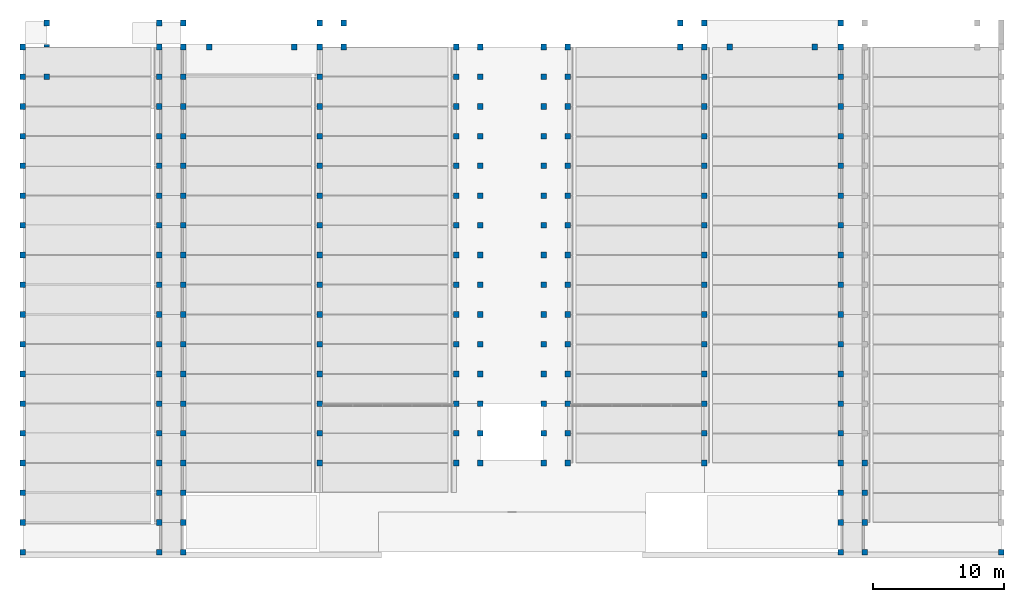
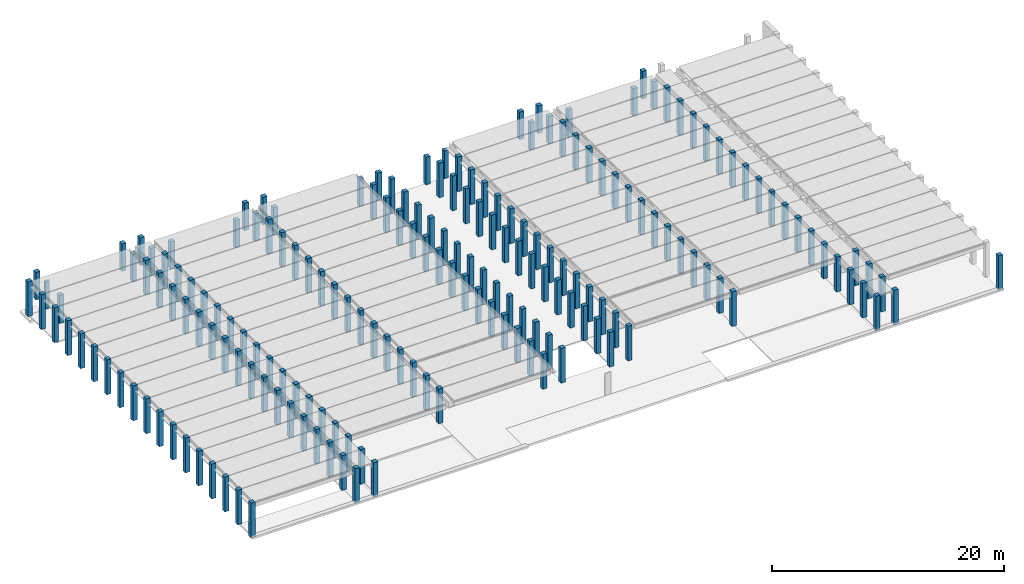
# One storey, part 1 of 25: 183 columns.
"""IFC2X3 building model written with IfcOpenShell, lengths in millimetres."""

from ifc_helpers import new_model, entity, si_unit, converted_unit, derived_unit, direction, frame, origin, origin_2d_with_axis, place, context, subcontext, project, spatial, polyline, rectangle, outline, extrude, source, transform, mapped, material, type_object, type_shapes, element, save


model = new_model("IFC2X3")

# Units and contexts
model_context = context("Model", 3, precision=0.01, world=origin(), true_north=direction((6.12303176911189e-17, 1.0)))
body_context = subcontext(model_context, "Body", "Model", "MODEL_VIEW")
ifc_project = project(units=[si_unit("LENGTHUNIT", "METRE", prefix="MILLI"), si_unit("AREAUNIT", "SQUARE_METRE"), si_unit("VOLUMEUNIT", "CUBIC_METRE"), converted_unit("PLANEANGLEUNIT", "DEGREE", entity("IfcRatioMeasure", 0.0174532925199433), si_unit("PLANEANGLEUNIT", "RADIAN"), dimensions=[0, 0, 0, 0, 0, 0, 0]), si_unit("MASSUNIT", "GRAM", prefix="KILO"), derived_unit("MASSDENSITYUNIT", [(si_unit("MASSUNIT", "GRAM", prefix="KILO"), 1), (si_unit("LENGTHUNIT", "METRE"), -3)]), derived_unit("MOMENTOFINERTIAUNIT", [(si_unit("LENGTHUNIT", "METRE"), 4)]), si_unit("TIMEUNIT", "SECOND"), si_unit("FREQUENCYUNIT", "HERTZ"), si_unit("THERMODYNAMICTEMPERATUREUNIT", "DEGREE_CELSIUS"), derived_unit("THERMALTRANSMITTANCEUNIT", [(si_unit("MASSUNIT", "GRAM", prefix="KILO"), 1), (si_unit("THERMODYNAMICTEMPERATUREUNIT", "KELVIN"), -1), (si_unit("TIMEUNIT", "SECOND"), -3)]), derived_unit("VOLUMETRICFLOWRATEUNIT", [(si_unit("LENGTHUNIT", "METRE"), 3), (si_unit("TIMEUNIT", "SECOND"), -1)]), si_unit("ELECTRICCURRENTUNIT", "AMPERE"), si_unit("ELECTRICVOLTAGEUNIT", "VOLT"), si_unit("POWERUNIT", "WATT"), si_unit("FORCEUNIT", "NEWTON", prefix="KILO"), si_unit("ILLUMINANCEUNIT", "LUX"), si_unit("LUMINOUSFLUXUNIT", "LUMEN"), si_unit("LUMINOUSINTENSITYUNIT", "CANDELA"), derived_unit("USERDEFINED", [(si_unit("MASSUNIT", "GRAM", prefix="KILO"), -1), (si_unit("LENGTHUNIT", "METRE"), -2), (si_unit("TIMEUNIT", "SECOND"), 3), (si_unit("LUMINOUSFLUXUNIT", "LUMEN"), 1)]), derived_unit("LINEARVELOCITYUNIT", [(si_unit("LENGTHUNIT", "METRE"), 1), (si_unit("TIMEUNIT", "SECOND"), -1)]), si_unit("PRESSUREUNIT", "PASCAL"), derived_unit("USERDEFINED", [(si_unit("LENGTHUNIT", "METRE"), -2), (si_unit("MASSUNIT", "GRAM", prefix="KILO"), 1), (si_unit("TIMEUNIT", "SECOND"), -2)]), derived_unit("LINEARFORCEUNIT", [(si_unit("MASSUNIT", "GRAM", prefix="KILO"), 1), (si_unit("LENGTHUNIT", "METRE"), 1), (si_unit("TIMEUNIT", "SECOND"), -2), (si_unit("LENGTHUNIT", "METRE"), -1)]), derived_unit("PLANARFORCEUNIT", [(si_unit("MASSUNIT", "GRAM", prefix="KILO"), 1), (si_unit("LENGTHUNIT", "METRE"), 1), (si_unit("TIMEUNIT", "SECOND"), -2), (si_unit("LENGTHUNIT", "METRE"), -2)])], contexts=[model_context])

# Site, building, storey
site_placement = place(None, frame((10627.5135316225, 21939.0796949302, 0.0)))
site = spatial("IfcSite", under=ifc_project, at=site_placement, Name="Default", CompositionType="ELEMENT")
building_placement = place(site_placement, origin())
building = spatial("IfcBuilding", under=site, at=building_placement, CompositionType="ELEMENT")
storey_placement = place(building_placement, origin())
storey = spatial("IfcBuildingStorey", under=building, at=storey_placement, Name="RDC", CompositionType="ELEMENT", Elevation=0.0)

# Columns
ifc_material = material(Name="Concrete, Precast Smooth, Light Grey")
column_type_1 = type_object("IfcColumnType", Name="M_Precast-Square Column:430x430", PredefinedType="COLUMN", material=ifc_material)
shared_shape_1 = source(origin(), body_context, "Body", "SweptSolid", [
    extrude(rectangle(XDim=430.0, YDim=430.0, at=origin_2d_with_axis()), frame((0.0, 0.0, 0.0), z_axis=(0.0, 0.0, 1.0), x_axis=(0.0, -1.0, 0.0)), (0.0, 0.0, 1.0), 2910.0),
])
type_shapes(column_type_1, [shared_shape_1])
column_1_placement = place(storey_placement, frame((-247.513531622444, 16480.9203050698, 0.0)))
element("IfcColumn", 1, at=column_1_placement, inside=storey, type_object=column_type_1, material=ifc_material, Name="M_Precast-Square Column:430x430", ObjectType="M_Precast-Square Column:430x430", context=body_context, shape_type="MappedRepresentation", body=[
    mapped(shared_shape_1, transform((0.0, 0.0, 0.0), scale=1.0)),
])
for number, where, z_axis, x_axis, name in (
    (2, (-247.513531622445, 18310.9203050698, 0.0), (0.0, 0.0, 1.0), (-1.0, 0.0, 0.0), "M_Precast-Square Column:430x430"),
    (3, (1582.48646837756, 18310.9203050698, 0.0), (0.0, 0.0, 1.0), (-1.0, 0.0, 0.0), "M_Precast-Square Column:430x430"),
    (4, (1582.48646837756, 16480.9203050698, 0.0), (0.0, 0.0, 1.0), (-1.0, 0.0, 0.0), "M_Precast-Square Column:430x430"),
    (5, (3545.48646837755, 16480.9203050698, 0.0), (0.0, 0.0, 1.0), (-1.0, 0.0, 0.0), "M_Precast-Square Column:430x430"),
    (6, (11962.4864683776, 16480.9203050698, 0.0), (0.0, 0.0, 1.0), (-1.0, 0.0, 0.0), "M_Precast-Square Column:430x430"),
    (7, (11962.4864683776, 18310.9203050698, 0.0), (0.0, 0.0, 1.0), (-1.0, 0.0, 0.0), "M_Precast-Square Column:430x430"),
    (8, (-8797.51353162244, 18310.9203050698, 0.0), (0.0, 0.0, 1.0), (-1.0, 0.0, 0.0), "M_Precast-Square Column:430x430"),
    (9, (22342.4864683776, 16480.9203050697, 0.0), (0.0, 0.0, 1.0), (-1.0, 0.0, 0.0), "M_Precast-Square Column:430x430"),
    (10, (24172.4864683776, 16480.9203050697, 0.0), (0.0, 0.0, 1.0), (-1.0, 0.0, 0.0), "M_Precast-Square Column:430x430"),
    (11, (43137.3311933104, 16480.9203050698, 0.0), (0.0, 0.0, 1.0), (-1.0, 0.0, 0.0), "M_Precast-Square Column:430x430"),
    (12, (39362.4864683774, 18310.9203050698, 0.0), (0.0, 0.0, 1.0), (-1.0, 0.0, 0.0), "M_Precast-Square Column:430x430"),
    (13, (39362.4864683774, 16480.9203050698, 0.0), (0.0, 0.0, 1.0), (-1.0, 0.0, 0.0), "M_Precast-Square Column:430x430"),
):
    element("IfcColumn", number, at=place(storey_placement, frame(where, z_axis=z_axis, x_axis=x_axis)), inside=storey, type_object=column_type_1, material=ifc_material, Name=name, ObjectType="M_Precast-Square Column:430x430", context=body_context, shape_type="MappedRepresentation", body=[
        mapped(shared_shape_1, transform((0.0, 0.0, 0.0), scale=1.0)),
    ])
column_type_2 = type_object("IfcColumnType", Name="M_Precast-Rectangular Column:430X200", PredefinedType="COLUMN", material=ifc_material)
shared_shape_2 = source(origin(), body_context, "Body", "SweptSolid", [
    extrude(outline(polyline([(-75.0, -215.0), (75.0, -215.0), (100.0, -190.0), (100.0, 190.0), (75.0, 215.0), (-75.0, 215.0), (-100.0, 190.0), (-100.0, -190.0), (-75.0, -215.0)])), frame((0.0, 0.0, 0.0), z_axis=(0.0, 0.0, 1.0), x_axis=(0.0, -1.0, 0.0)), (0.0, 0.0, 1.0), 2910.0),
])
type_shapes(column_type_2, [shared_shape_2])
column_2_placement = place(storey_placement, frame((-8797.51353162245, 16590.9203050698, 0.0), z_axis=(0.0, 0.0, 1.0), x_axis=(-1.0, 0.0, 0.0)))
element("IfcColumn", 14, at=column_2_placement, inside=storey, type_object=column_type_2, material=ifc_material, Name="M_Precast-Rectangular Column:430X200", ObjectType="M_Precast-Rectangular Column:430X200", context=body_context, shape_type="MappedRepresentation", body=[
    mapped(shared_shape_2, transform((0.0, 0.0, 0.0), scale=1.0)),
])
column_type_3 = type_object("IfcColumnType", Name="M_Precast-Square Column:430x430", PredefinedType="COLUMN", material=ifc_material)
shared_shape_3 = source(origin(), body_context, "Body", "SweptSolid", [
    extrude(rectangle(XDim=430.0, YDim=430.0, at=origin_2d_with_axis()), frame((0.0, 0.0, 0.0), z_axis=(0.0, 0.0, 1.0), x_axis=(0.0, -1.0, 0.0)), (0.0, 0.0, 1.0), 2910.0),
])
type_shapes(column_type_3, [shared_shape_3])
for number, where, name in (
    (15, (10017.6417434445, 16480.9203050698, 0.0), "M_Precast-Square Column:430x430"),
    (16, (13792.4864683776, 18310.9203050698, 0.0), "M_Precast-Square Column:430x430"),
    (17, (13792.4864683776, 16480.9203050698, 0.0), "M_Precast-Square Column:430x430"),
    (18, (51572.4864683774, 18310.9203050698, 0.0), "M_Precast-Square Column:430x430"),
    (19, (51572.4864683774, 16480.9203050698, 0.0), "M_Precast-Square Column:430x430"),
    (20, (49609.4864683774, 16480.9203050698, 0.0), "M_Precast-Square Column:430x430"),
    (21, (41192.4864683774, 16480.9203050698, 0.0), "M_Precast-Square Column:430x430"),
    (22, (41192.4864683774, 18310.9203050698, 0.0), "M_Precast-Square Column:430x430"),
    (23, (30812.4864683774, 16480.9203050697, 0.0), "M_Precast-Square Column:430x430"),
    (24, (28982.4864683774, 16480.9203050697, 0.0), "M_Precast-Square Column:430x430"),
):
    element("IfcColumn", number, at=place(storey_placement, frame(where)), inside=storey, type_object=column_type_3, material=ifc_material, Name=name, ObjectType="M_Precast-Square Column:430x430", context=body_context, shape_type="MappedRepresentation", body=[
        mapped(shared_shape_3, transform((0.0, 0.0, 0.0), scale=1.0)),
    ])
column_type_4 = type_object("IfcColumnType", Name="M_Precast-Square Column:430x430 Main floor", PredefinedType="COLUMN", material=ifc_material)
shared_shape_4 = source(origin(), body_context, "Body", "SweptSolid", [
    extrude(rectangle(XDim=430.0, YDim=430.0, at=origin_2d_with_axis()), frame((0.0, 0.0, 0.0), z_axis=(0.0, 0.0, 1.0), x_axis=(0.0, -1.0, 0.0)), (0.0, 0.0, 1.0), 2960.0),
])
type_shapes(column_type_4, [shared_shape_4])
column_3_placement = place(storey_placement, frame((-8797.51353162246, 14220.9203050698, 0.0), z_axis=(0.0, 0.0, 1.0), x_axis=(-1.0, 0.0, 0.0)))
element("IfcColumn", 25, at=column_3_placement, inside=storey, type_object=column_type_4, material=ifc_material, Name="M_Precast-Square Column:430x430 Main floor", ObjectType="M_Precast-Square Column:430x430 Main floor", context=body_context, shape_type="MappedRepresentation", body=[
    mapped(shared_shape_4, transform((0.0, 0.0, 0.0), scale=1.0)),
])
column_type_5 = type_object("IfcColumnType", Name="M_Precast-Square Column:430x430 Main floor", PredefinedType="COLUMN", material=ifc_material)
shared_shape_5 = source(origin(), body_context, "Body", "SweptSolid", [
    extrude(rectangle(XDim=430.0, YDim=430.0, at=origin_2d_with_axis()), frame((0.0, 0.0, 0.0), z_axis=(0.0, 0.0, 1.0), x_axis=(0.0, -1.0, 0.0)), (0.0, 0.0, 1.0), 3660.0),
])
type_shapes(column_type_5, [shared_shape_5])
for number, where, z_axis, x_axis, name in (
    (26, (-10627.5135316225, 14220.9203050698, 0.0), (0.0, 0.0, 1.0), (-1.0, 0.0, 0.0), "M_Precast-Square Column:430x430 Main floor"),
    (27, (-10627.5135316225, 11960.9203050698, 0.0), (0.0, 0.0, 1.0), (-1.0, 0.0, 0.0), "M_Precast-Square Column:430x430 Main floor"),
    (28, (-247.51353162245, 14220.9203050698, 0.0), (0.0, 0.0, 1.0), (-1.0, 0.0, 0.0), "M_Precast-Square Column:430x430 Main floor"),
    (29, (-247.513531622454, 11960.9203050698, 0.0), (0.0, 0.0, 1.0), (-1.0, 0.0, 0.0), "M_Precast-Square Column:430x430 Main floor"),
    (30, (1582.48646837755, 14220.9203050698, 0.0), (0.0, 0.0, 1.0), (-1.0, 0.0, 0.0), "M_Precast-Square Column:430x430 Main floor"),
    (31, (1582.48646837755, 11960.9203050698, 0.0), (0.0, 0.0, 1.0), (-1.0, 0.0, 0.0), "M_Precast-Square Column:430x430 Main floor"),
    (32, (11962.4864683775, 14220.9203050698, 0.0), (0.0, 0.0, 1.0), (-1.0, 0.0, 0.0), "M_Precast-Square Column:430x430 Main floor"),
    (33, (11962.4864683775, 11960.9203050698, 0.0), (0.0, 0.0, 1.0), (-1.0, 0.0, 0.0), "M_Precast-Square Column:430x430 Main floor"),
    (34, (22342.4864683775, 14220.9203050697, 0.0), (0.0, 0.0, 1.0), (-1.0, 0.0, 0.0), "M_Precast-Square Column:430x430 Main floor"),
    (35, (22342.4864683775, 11960.9203050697, 0.0), (0.0, 0.0, 1.0), (-1.0, 0.0, 0.0), "M_Precast-Square Column:430x430 Main floor"),
    (36, (24172.4864683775, 14220.9203050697, 0.0), (0.0, 0.0, 1.0), (-1.0, 0.0, 0.0), "M_Precast-Square Column:430x430 Main floor"),
    (37, (24172.4864683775, 11960.9203050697, 0.0), (0.0, 0.0, 1.0), (-1.0, 0.0, 0.0), "M_Precast-Square Column:430x430 Main floor"),
    (38, (-247.513531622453, 9700.92030506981, 0.0), (0.0, 0.0, 1.0), (-1.0, 0.0, 0.0), "M_Precast-Square Column:430x430 Main floor"),
    (39, (1582.48646837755, 9700.9203050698, 0.0), (0.0, 0.0, 1.0), (-1.0, 0.0, 0.0), "M_Precast-Square Column:430x430 Main floor"),
    (40, (-10627.5135316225, 9700.92030506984, 0.0), (0.0, 0.0, 1.0), (-1.0, 0.0, 0.0), "M_Precast-Square Column:430x430 Main floor"),
    (41, (11962.4864683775, 9700.92030506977, 0.0), (0.0, 0.0, 1.0), (-1.0, 0.0, 0.0), "M_Precast-Square Column:430x430 Main floor"),
    (42, (22342.4864683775, 9700.92030506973, 0.0), (0.0, 0.0, 1.0), (-1.0, 0.0, 0.0), "M_Precast-Square Column:430x430 Main floor"),
    (43, (24172.4864683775, 9700.92030506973, 0.0), (0.0, 0.0, 1.0), (-1.0, 0.0, 0.0), "M_Precast-Square Column:430x430 Main floor"),
    (44, (-247.513531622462, 7440.92030506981, 0.0), (0.0, 0.0, 1.0), (-1.0, 0.0, 0.0), "M_Precast-Square Column:430x430 Main floor"),
    (45, (1582.48646837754, 7440.9203050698, 0.0), (0.0, 0.0, 1.0), (-1.0, 0.0, 0.0), "M_Precast-Square Column:430x430 Main floor"),
    (46, (-10627.5135316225, 7440.92030506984, 0.0), (0.0, 0.0, 1.0), (-1.0, 0.0, 0.0), "M_Precast-Square Column:430x430 Main floor"),
    (47, (11962.4864683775, 7440.92030506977, 0.0), (0.0, 0.0, 1.0), (-1.0, 0.0, 0.0), "M_Precast-Square Column:430x430 Main floor"),
    (48, (22342.4864683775, 7440.92030506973, 0.0), (0.0, 0.0, 1.0), (-1.0, 0.0, 0.0), "M_Precast-Square Column:430x430 Main floor"),
    (49, (24172.4864683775, 7440.92030506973, 0.0), (0.0, 0.0, 1.0), (-1.0, 0.0, 0.0), "M_Precast-Square Column:430x430 Main floor"),
    (50, (-247.513531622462, 5180.92030506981, 0.0), (0.0, 0.0, 1.0), (-1.0, 0.0, 0.0), "M_Precast-Square Column:430x430 Main floor"),
    (51, (1582.48646837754, 5180.9203050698, 0.0), (0.0, 0.0, 1.0), (-1.0, 0.0, 0.0), "M_Precast-Square Column:430x430 Main floor"),
    (52, (-10627.5135316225, 5180.92030506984, 0.0), (0.0, 0.0, 1.0), (-1.0, 0.0, 0.0), "M_Precast-Square Column:430x430 Main floor"),
    (53, (11962.4864683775, 5180.92030506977, 0.0), (0.0, 0.0, 1.0), (-1.0, 0.0, 0.0), "M_Precast-Square Column:430x430 Main floor"),
    (54, (22342.4864683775, 5180.92030506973, 0.0), (0.0, 0.0, 1.0), (-1.0, 0.0, 0.0), "M_Precast-Square Column:430x430 Main floor"),
    (55, (24172.4864683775, 5180.92030506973, 0.0), (0.0, 0.0, 1.0), (-1.0, 0.0, 0.0), "M_Precast-Square Column:430x430 Main floor"),
    (56, (-247.513531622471, 2920.92030506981, 0.0), (0.0, 0.0, 1.0), (-1.0, 0.0, 0.0), "M_Precast-Square Column:430x430 Main floor"),
    (57, (1582.48646837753, 2920.9203050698, 0.0), (0.0, 0.0, 1.0), (-1.0, 0.0, 0.0), "M_Precast-Square Column:430x430 Main floor"),
    (58, (-10627.5135316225, 2920.92030506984, 0.0), (0.0, 0.0, 1.0), (-1.0, 0.0, 0.0), "M_Precast-Square Column:430x430 Main floor"),
    (59, (11962.4864683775, 2920.92030506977, 0.0), (0.0, 0.0, 1.0), (-1.0, 0.0, 0.0), "M_Precast-Square Column:430x430 Main floor"),
    (60, (22342.4864683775, 2920.92030506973, 0.0), (0.0, 0.0, 1.0), (-1.0, 0.0, 0.0), "M_Precast-Square Column:430x430 Main floor"),
    (61, (24172.4864683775, 2920.92030506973, 0.0), (0.0, 0.0, 1.0), (-1.0, 0.0, 0.0), "M_Precast-Square Column:430x430 Main floor"),
    (62, (-247.513531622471, 660.920305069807, 0.0), (0.0, 0.0, 1.0), (-1.0, 0.0, 0.0), "M_Precast-Square Column:430x430 Main floor"),
    (63, (1582.48646837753, 660.920305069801, 0.0), (0.0, 0.0, 1.0), (-1.0, 0.0, 0.0), "M_Precast-Square Column:430x430 Main floor"),
    (64, (-10627.5135316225, 660.92030506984, 0.0), (0.0, 0.0, 1.0), (-1.0, 0.0, 0.0), "M_Precast-Square Column:430x430 Main floor"),
    (65, (11962.4864683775, 660.920305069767, 0.0), (0.0, 0.0, 1.0), (-1.0, 0.0, 0.0), "M_Precast-Square Column:430x430 Main floor"),
    (66, (22342.4864683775, 660.920305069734, 0.0), (0.0, 0.0, 1.0), (-1.0, 0.0, 0.0), "M_Precast-Square Column:430x430 Main floor"),
    (67, (24172.4864683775, 660.920305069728, 0.0), (0.0, 0.0, 1.0), (-1.0, 0.0, 0.0), "M_Precast-Square Column:430x430 Main floor"),
    (68, (-247.513531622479, -1599.07969493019, 0.0), (0.0, 0.0, 1.0), (-1.0, 0.0, 0.0), "M_Precast-Square Column:430x430 Main floor"),
    (69, (1582.48646837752, -1599.0796949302, 0.0), (0.0, 0.0, 1.0), (-1.0, 0.0, 0.0), "M_Precast-Square Column:430x430 Main floor"),
    (70, (-10627.5135316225, -1599.07969493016, 0.0), (0.0, 0.0, 1.0), (-1.0, 0.0, 0.0), "M_Precast-Square Column:430x430 Main floor"),
    (71, (11962.4864683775, -1599.07969493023, 0.0), (0.0, 0.0, 1.0), (-1.0, 0.0, 0.0), "M_Precast-Square Column:430x430 Main floor"),
    (72, (22342.4864683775, -1599.07969493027, 0.0), (0.0, 0.0, 1.0), (-1.0, 0.0, 0.0), "M_Precast-Square Column:430x430 Main floor"),
    (73, (24172.4864683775, -1599.07969493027, 0.0), (0.0, 0.0, 1.0), (-1.0, 0.0, 0.0), "M_Precast-Square Column:430x430 Main floor"),
    (74, (-247.513531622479, -3859.07969493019, 0.0), (0.0, 0.0, 1.0), (-1.0, 0.0, 0.0), "M_Precast-Square Column:430x430 Main floor"),
    (75, (1582.48646837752, -3859.0796949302, 0.0), (0.0, 0.0, 1.0), (-1.0, 0.0, 0.0), "M_Precast-Square Column:430x430 Main floor"),
    (76, (-10627.5135316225, -3859.07969493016, 0.0), (0.0, 0.0, 1.0), (-1.0, 0.0, 0.0), "M_Precast-Square Column:430x430 Main floor"),
    (77, (11962.4864683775, -3859.07969493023, 0.0), (0.0, 0.0, 1.0), (-1.0, 0.0, 0.0), "M_Precast-Square Column:430x430 Main floor"),
    (78, (22342.4864683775, -3859.07969493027, 0.0), (0.0, 0.0, 1.0), (-1.0, 0.0, 0.0), "M_Precast-Square Column:430x430 Main floor"),
    (79, (24172.4864683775, -3859.07969493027, 0.0), (0.0, 0.0, 1.0), (-1.0, 0.0, 0.0), "M_Precast-Square Column:430x430 Main floor"),
    (80, (-247.513531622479, -6119.07969493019, 0.0), (0.0, 0.0, 1.0), (-1.0, 0.0, 0.0), "M_Precast-Square Column:430x430 Main floor"),
    (81, (1582.48646837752, -6119.0796949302, 0.0), (0.0, 0.0, 1.0), (-1.0, 0.0, 0.0), "M_Precast-Square Column:430x430 Main floor"),
    (82, (-10627.5135316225, -6119.07969493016, 0.0), (0.0, 0.0, 1.0), (-1.0, 0.0, 0.0), "M_Precast-Square Column:430x430 Main floor"),
    (83, (11962.4864683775, -6119.07969493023, 0.0), (0.0, 0.0, 1.0), (-1.0, 0.0, 0.0), "M_Precast-Square Column:430x430 Main floor"),
    (84, (22342.4864683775, -6119.07969493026, 0.0), (0.0, 0.0, 1.0), (-1.0, 0.0, 0.0), "M_Precast-Square Column:430x430 Main floor"),
    (85, (24172.4864683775, -6119.07969493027, 0.0), (0.0, 0.0, 1.0), (-1.0, 0.0, 0.0), "M_Precast-Square Column:430x430 Main floor"),
    (86, (-247.513531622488, -8379.07969493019, 0.0), (0.0, 0.0, 1.0), (-1.0, 0.0, 0.0), "M_Precast-Square Column:430x430 Main floor"),
    (87, (1582.48646837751, -8379.0796949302, 0.0), (0.0, 0.0, 1.0), (-1.0, 0.0, 0.0), "M_Precast-Square Column:430x430 Main floor"),
    (88, (-10627.5135316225, -8379.07969493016, 0.0), (0.0, 0.0, 1.0), (-1.0, 0.0, 0.0), "M_Precast-Square Column:430x430 Main floor"),
    (89, (11962.4864683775, -8379.07969493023, 0.0), (0.0, 0.0, 1.0), (-1.0, 0.0, 0.0), "M_Precast-Square Column:430x430 Main floor"),
    (90, (22342.4864683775, -8379.07969493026, 0.0), (0.0, 0.0, 1.0), (-1.0, 0.0, 0.0), "M_Precast-Square Column:430x430 Main floor"),
    (91, (24172.4864683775, -8379.07969493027, 0.0), (0.0, 0.0, 1.0), (-1.0, 0.0, 0.0), "M_Precast-Square Column:430x430 Main floor"),
    (92, (-247.513531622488, -10639.0796949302, 0.0), (0.0, 0.0, 1.0), (-1.0, 0.0, 0.0), "M_Precast-Square Column:430x430 Main floor"),
    (93, (1582.48646837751, -10639.0796949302, 0.0), (0.0, 0.0, 1.0), (-1.0, 0.0, 0.0), "M_Precast-Square Column:430x430 Main floor"),
    (94, (-10627.5135316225, -10639.0796949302, 0.0), (0.0, 0.0, 1.0), (-1.0, 0.0, 0.0), "M_Precast-Square Column:430x430 Main floor"),
    (95, (11962.4864683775, -10639.0796949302, 0.0), (0.0, 0.0, 1.0), (-1.0, 0.0, 0.0), "M_Precast-Square Column:430x430 Main floor"),
    (96, (22342.4864683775, -10639.0796949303, 0.0), (0.0, 0.0, 1.0), (-1.0, 0.0, 0.0), "M_Precast-Square Column:430x430 Main floor"),
    (97, (24172.4864683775, -10639.0796949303, 0.0), (0.0, 0.0, 1.0), (-1.0, 0.0, 0.0), "M_Precast-Square Column:430x430 Main floor"),
    (98, (-247.513531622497, -12899.0796949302, 0.0), (0.0, 0.0, 1.0), (-1.0, 0.0, 0.0), "M_Precast-Square Column:430x430 Main floor"),
    (99, (1582.4864683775, -12899.0796949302, 0.0), (0.0, 0.0, 1.0), (-1.0, 0.0, 0.0), "M_Precast-Square Column:430x430 Main floor"),
    (100, (-10627.5135316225, -12899.0796949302, 0.0), (0.0, 0.0, 1.0), (-1.0, 0.0, 0.0), "M_Precast-Square Column:430x430 Main floor"),
    (101, (11962.4864683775, -12899.0796949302, 0.0), (0.0, 0.0, 1.0), (-1.0, 0.0, 0.0), "M_Precast-Square Column:430x430 Main floor"),
    (102, (22342.4864683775, -12899.0796949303, 0.0), (0.0, 0.0, 1.0), (-1.0, 0.0, 0.0), "M_Precast-Square Column:430x430 Main floor"),
    (103, (24172.4864683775, -12899.0796949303, 0.0), (0.0, 0.0, 1.0), (-1.0, 0.0, 0.0), "M_Precast-Square Column:430x430 Main floor"),
    (104, (-247.513531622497, -15159.0796949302, 0.0), (0.0, 0.0, 1.0), (-1.0, 0.0, 0.0), "M_Precast-Square Column:430x430 Main floor"),
    (105, (1582.4864683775, -15159.0796949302, 0.0), (0.0, 0.0, 1.0), (-1.0, 0.0, 0.0), "M_Precast-Square Column:430x430 Main floor"),
    (106, (-10627.5135316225, -15159.0796949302, 0.0), (0.0, 0.0, 1.0), (-1.0, 0.0, 0.0), "M_Precast-Square Column:430x430 Main floor"),
    (107, (11962.4864683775, -15159.0796949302, 0.0), (0.0, 0.0, 1.0), (-1.0, 0.0, 0.0), "M_Precast-Square Column:430x430 Main floor"),
    (108, (22342.4864683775, -15159.0796949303, 0.0), (0.0, 0.0, 1.0), (-1.0, 0.0, 0.0), "M_Precast-Square Column:430x430 Main floor"),
    (109, (24172.4864683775, -15159.0796949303, 0.0), (0.0, 0.0, 1.0), (-1.0, 0.0, 0.0), "M_Precast-Square Column:430x430 Main floor"),
    (110, (-247.513531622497, -17419.0796949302, 0.0), (0.0, 0.0, 1.0), (-1.0, 0.0, 0.0), "M_Precast-Square Column:430x430 Main floor"),
    (111, (1582.4864683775, -17419.0796949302, 0.0), (0.0, 0.0, 1.0), (-1.0, 0.0, 0.0), "M_Precast-Square Column:430x430 Main floor"),
    (112, (-10627.5135316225, -17419.0796949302, 0.0), (0.0, 0.0, 1.0), (-1.0, 0.0, 0.0), "M_Precast-Square Column:430x430 Main floor"),
    (113, (-247.513531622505, -19679.0796949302, 0.0), (0.0, 0.0, 1.0), (-1.0, 0.0, 0.0), "M_Precast-Square Column:430x430 Main floor"),
    (114, (1582.48646837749, -19679.0796949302, 0.0), (0.0, 0.0, 1.0), (-1.0, 0.0, 0.0), "M_Precast-Square Column:430x430 Main floor"),
    (115, (-10627.5135316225, -19679.0796949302, 0.0), (0.0, 0.0, 1.0), (-1.0, 0.0, 0.0), "M_Precast-Square Column:430x430 Main floor"),
    (116, (-247.513531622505, -21939.0796949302, 0.0), (0.0, 0.0, 1.0), (-1.0, 0.0, 0.0), "M_Precast-Square Column:430x430 Main floor"),
    (117, (1582.48646837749, -21939.0796949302, 0.0), (0.0, 0.0, 1.0), (-1.0, 0.0, 0.0), "M_Precast-Square Column:430x430 Main floor"),
    (118, (-10627.5135316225, -21939.0796949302, 0.0), (0.0, 0.0, 1.0), (-1.0, 0.0, 0.0), "M_Precast-Square Column:430x430 Main floor"),
):
    element("IfcColumn", number, at=place(storey_placement, frame(where, z_axis=z_axis, x_axis=x_axis)), inside=storey, type_object=column_type_5, material=ifc_material, Name=name, ObjectType="M_Precast-Square Column:430x430 Main floor", context=body_context, shape_type="MappedRepresentation", body=[
        mapped(shared_shape_5, transform((0.0, 0.0, 0.0), scale=1.0)),
    ])
column_type_6 = type_object("IfcColumnType", Name="M_Precast-Square Column:430x430 Main floor", PredefinedType="COLUMN", material=ifc_material)
shared_shape_6 = source(origin(), body_context, "Body", "SweptSolid", [
    extrude(rectangle(XDim=430.0, YDim=430.0, at=origin_2d_with_axis()), frame((0.0, 0.0, 0.0), z_axis=(0.0, 0.0, 1.0), x_axis=(0.0, -1.0, 0.0)), (0.0, 0.0, 1.0), 3660.0),
])
type_shapes(column_type_6, [shared_shape_6])
for number, where, name in (
    (119, (51572.4864683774, 14220.9203050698, 0.0), "M_Precast-Square Column:430x430 Main floor"),
    (120, (51572.4864683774, 11960.9203050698, 0.0), "M_Precast-Square Column:430x430 Main floor"),
    (121, (41192.4864683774, 14220.9203050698, 0.0), "M_Precast-Square Column:430x430 Main floor"),
    (122, (41192.4864683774, 11960.9203050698, 0.0), "M_Precast-Square Column:430x430 Main floor"),
    (123, (30812.4864683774, 14220.9203050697, 0.0), "M_Precast-Square Column:430x430 Main floor"),
    (124, (30812.4864683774, 11960.9203050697, 0.0), "M_Precast-Square Column:430x430 Main floor"),
    (125, (28982.4864683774, 14220.9203050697, 0.0), "M_Precast-Square Column:430x430 Main floor"),
    (126, (28982.4864683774, 11960.9203050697, 0.0), "M_Precast-Square Column:430x430 Main floor"),
    (127, (51572.4864683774, 9700.9203050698, 0.0), "M_Precast-Square Column:430x430 Main floor"),
    (128, (41192.4864683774, 9700.92030506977, 0.0), "M_Precast-Square Column:430x430 Main floor"),
    (129, (30812.4864683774, 9700.92030506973, 0.0), "M_Precast-Square Column:430x430 Main floor"),
    (130, (28982.4864683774, 9700.92030506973, 0.0), "M_Precast-Square Column:430x430 Main floor"),
    (131, (51572.4864683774, 7440.9203050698, 0.0), "M_Precast-Square Column:430x430 Main floor"),
    (132, (41192.4864683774, 7440.92030506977, 0.0), "M_Precast-Square Column:430x430 Main floor"),
    (133, (30812.4864683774, 7440.92030506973, 0.0), "M_Precast-Square Column:430x430 Main floor"),
    (134, (28982.4864683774, 7440.92030506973, 0.0), "M_Precast-Square Column:430x430 Main floor"),
    (135, (51572.4864683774, 5180.9203050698, 0.0), "M_Precast-Square Column:430x430 Main floor"),
    (136, (41192.4864683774, 5180.92030506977, 0.0), "M_Precast-Square Column:430x430 Main floor"),
    (137, (30812.4864683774, 5180.92030506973, 0.0), "M_Precast-Square Column:430x430 Main floor"),
    (138, (28982.4864683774, 5180.92030506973, 0.0), "M_Precast-Square Column:430x430 Main floor"),
    (139, (51572.4864683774, 2920.9203050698, 0.0), "M_Precast-Square Column:430x430 Main floor"),
    (140, (41192.4864683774, 2920.92030506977, 0.0), "M_Precast-Square Column:430x430 Main floor"),
    (141, (30812.4864683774, 2920.92030506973, 0.0), "M_Precast-Square Column:430x430 Main floor"),
    (142, (28982.4864683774, 2920.92030506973, 0.0), "M_Precast-Square Column:430x430 Main floor"),
    (143, (51572.4864683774, 660.920305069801, 0.0), "M_Precast-Square Column:430x430 Main floor"),
    (144, (41192.4864683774, 660.920305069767, 0.0), "M_Precast-Square Column:430x430 Main floor"),
    (145, (30812.4864683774, 660.920305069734, 0.0), "M_Precast-Square Column:430x430 Main floor"),
    (146, (28982.4864683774, 660.920305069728, 0.0), "M_Precast-Square Column:430x430 Main floor"),
    (147, (51572.4864683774, -1599.0796949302, 0.0), "M_Precast-Square Column:430x430 Main floor"),
    (148, (41192.4864683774, -1599.07969493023, 0.0), "M_Precast-Square Column:430x430 Main floor"),
    (149, (30812.4864683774, -1599.07969493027, 0.0), "M_Precast-Square Column:430x430 Main floor"),
    (150, (28982.4864683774, -1599.07969493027, 0.0), "M_Precast-Square Column:430x430 Main floor"),
    (151, (51572.4864683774, -3859.0796949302, 0.0), "M_Precast-Square Column:430x430 Main floor"),
    (152, (41192.4864683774, -3859.07969493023, 0.0), "M_Precast-Square Column:430x430 Main floor"),
    (153, (30812.4864683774, -3859.07969493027, 0.0), "M_Precast-Square Column:430x430 Main floor"),
    (154, (28982.4864683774, -3859.07969493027, 0.0), "M_Precast-Square Column:430x430 Main floor"),
    (155, (51572.4864683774, -6119.0796949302, 0.0), "M_Precast-Square Column:430x430 Main floor"),
    (156, (41192.4864683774, -6119.07969493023, 0.0), "M_Precast-Square Column:430x430 Main floor"),
    (157, (30812.4864683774, -6119.07969493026, 0.0), "M_Precast-Square Column:430x430 Main floor"),
    (158, (28982.4864683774, -6119.07969493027, 0.0), "M_Precast-Square Column:430x430 Main floor"),
    (159, (51572.4864683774, -8379.0796949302, 0.0), "M_Precast-Square Column:430x430 Main floor"),
    (160, (41192.4864683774, -8379.07969493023, 0.0), "M_Precast-Square Column:430x430 Main floor"),
    (161, (30812.4864683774, -8379.07969493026, 0.0), "M_Precast-Square Column:430x430 Main floor"),
    (162, (28982.4864683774, -8379.07969493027, 0.0), "M_Precast-Square Column:430x430 Main floor"),
    (163, (51572.4864683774, -10639.0796949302, 0.0), "M_Precast-Square Column:430x430 Main floor"),
    (164, (41192.4864683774, -10639.0796949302, 0.0), "M_Precast-Square Column:430x430 Main floor"),
    (165, (30812.4864683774, -10639.0796949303, 0.0), "M_Precast-Square Column:430x430 Main floor"),
    (166, (28982.4864683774, -10639.0796949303, 0.0), "M_Precast-Square Column:430x430 Main floor"),
    (167, (51572.4864683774, -12899.0796949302, 0.0), "M_Precast-Square Column:430x430 Main floor"),
    (168, (41192.4864683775, -12899.0796949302, 0.0), "M_Precast-Square Column:430x430 Main floor"),
    (169, (30812.4864683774, -12899.0796949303, 0.0), "M_Precast-Square Column:430x430 Main floor"),
    (170, (28982.4864683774, -12899.0796949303, 0.0), "M_Precast-Square Column:430x430 Main floor"),
    (171, (53402.4864683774, -15159.0796949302, 0.0), "M_Precast-Square Column:430x430 Main floor"),
    (172, (51572.4864683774, -15159.0796949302, 0.0), "M_Precast-Square Column:430x430 Main floor"),
    (173, (41192.4864683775, -15159.0796949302, 0.0), "M_Precast-Square Column:430x430 Main floor"),
    (174, (30812.4864683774, -15159.0796949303, 0.0), "M_Precast-Square Column:430x430 Main floor"),
    (175, (28982.4864683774, -15159.0796949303, 0.0), "M_Precast-Square Column:430x430 Main floor"),
    (176, (53402.4864683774, -17419.0796949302, 0.0), "M_Precast-Square Column:430x430 Main floor"),
    (177, (51572.4864683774, -17419.0796949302, 0.0), "M_Precast-Square Column:430x430 Main floor"),
    (178, (53402.4864683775, -19679.0796949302, 0.0), "M_Precast-Square Column:430x430 Main floor"),
    (179, (51572.4864683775, -19679.0796949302, 0.0), "M_Precast-Square Column:430x430 Main floor"),
    (180, (53402.4864683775, -21939.0796949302, 0.0), "M_Precast-Square Column:430x430 Main floor"),
    (181, (51572.4864683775, -21939.0796949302, 0.0), "M_Precast-Square Column:430x430 Main floor"),
    (182, (63782.4864683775, -21939.0796949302, 0.0), "M_Precast-Square Column:430x430 Main floor"),
):
    element("IfcColumn", number, at=place(storey_placement, frame(where)), inside=storey, type_object=column_type_6, material=ifc_material, Name=name, ObjectType="M_Precast-Square Column:430x430 Main floor", context=body_context, shape_type="MappedRepresentation", body=[
        mapped(shared_shape_6, transform((0.0, 0.0, 0.0), scale=1.0)),
    ])
column_type_7 = type_object("IfcColumnType", Name="M_Precast-Square Column:430x430", PredefinedType="COLUMN", material=ifc_material)
shared_shape_7 = source(origin(), body_context, "Body", "SweptSolid", [
    extrude(rectangle(XDim=430.0, YDim=430.0, at=origin_2d_with_axis()), frame((0.0, 0.0, 0.0), z_axis=(0.0, 0.0, 1.0), x_axis=(0.0, -1.0, 0.0)), (0.0, 0.0, 1.0), 3660.0),
])
type_shapes(column_type_7, [shared_shape_7])
column_4_placement = place(storey_placement, frame((-10627.5135316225, 16480.9203050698, 0.0)))
element("IfcColumn", 183, at=column_4_placement, inside=storey, type_object=column_type_7, material=ifc_material, Name="M_Precast-Square Column:430x430", ObjectType="M_Precast-Square Column:430x430", context=body_context, shape_type="MappedRepresentation", body=[
    mapped(shared_shape_7, transform((0.0, 0.0, 0.0), scale=1.0)),
])

save(model, "model.ifc")
